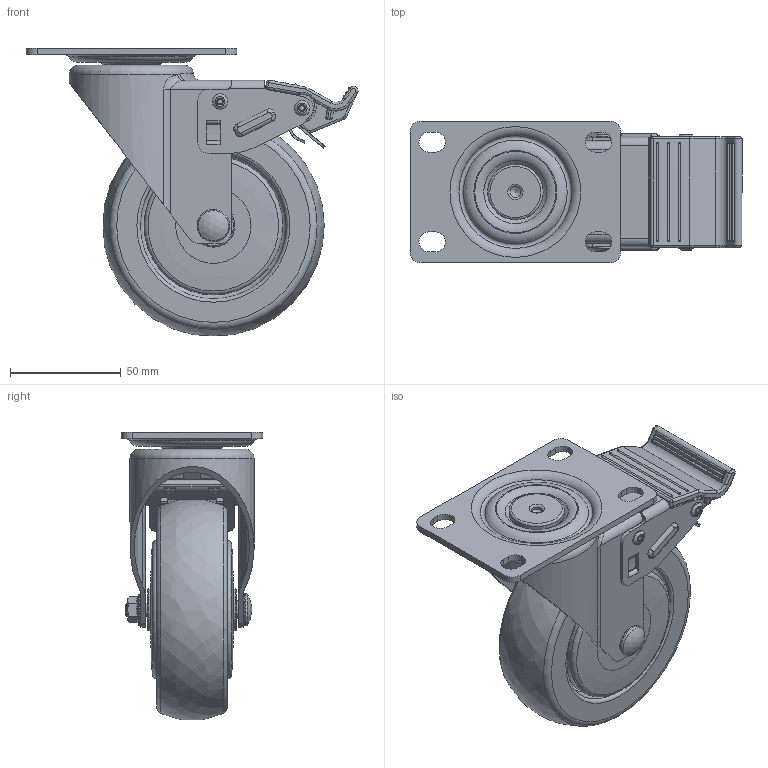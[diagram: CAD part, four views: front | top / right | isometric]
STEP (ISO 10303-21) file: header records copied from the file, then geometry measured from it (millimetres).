
FILE_DESCRIPTION((''),'2;1');
FILE_NAME('E:\GL-홈피용3D\3d step\가져온 구성요소\GL-100-BSF\GL-100-BSF.stp','2011-11-21T09:28:45',('Administrator'),(''),'Autodesk Inventor 2011','Autodesk Inventor 2011','');
FILE_SCHEMA(('AUTOMOTIVE_DESIGN { 1 0 10303 214 1 1 1 1 }'));
Length unit declared in the file: millimetre
Products named in the file (1): GL-100-BSF
Bounding box: 149.71 x 64 x 129.62 mm (x, y, z)
Volume: 260320.6 mm3; surface area: 120437.7 mm2
Topology: 8 solids, 11 shells, 804 faces, 2092 edges, 1338 vertices
Faces by surface type: cylinder 307, plane 274, torus 125, bspline 49, sphere 28, cone 21
Full cylindrical faces by diameter (mm): 5 x3, 5.2 x5, 6 x2, 6.2 x1, 7 x5, 8 x1, 8.2 x2, 11 x1, 11.1 x1, 11.2 x1, 14 x1, 14.6 x1, 15 x3, 16 x1, 19 x2, 21.667 x2, 21.867 x2, 24.645 x1, 25 x1, 28.133 x2, 28.333 x2, 32.4 x2, 41 x1, 43 x2, 47 x2, 59.5 x2, 62.5 x2, 66 x2
Entity records: 26040 total; most frequent: CARTESIAN_POINT 7072, DIRECTION 4124, ORIENTED_EDGE 3668, EDGE_CURVE 1834, AXIS2_PLACEMENT_3D 1654, VERTEX_POINT 1256, EDGE_LOOP 1082, CIRCLE 832
